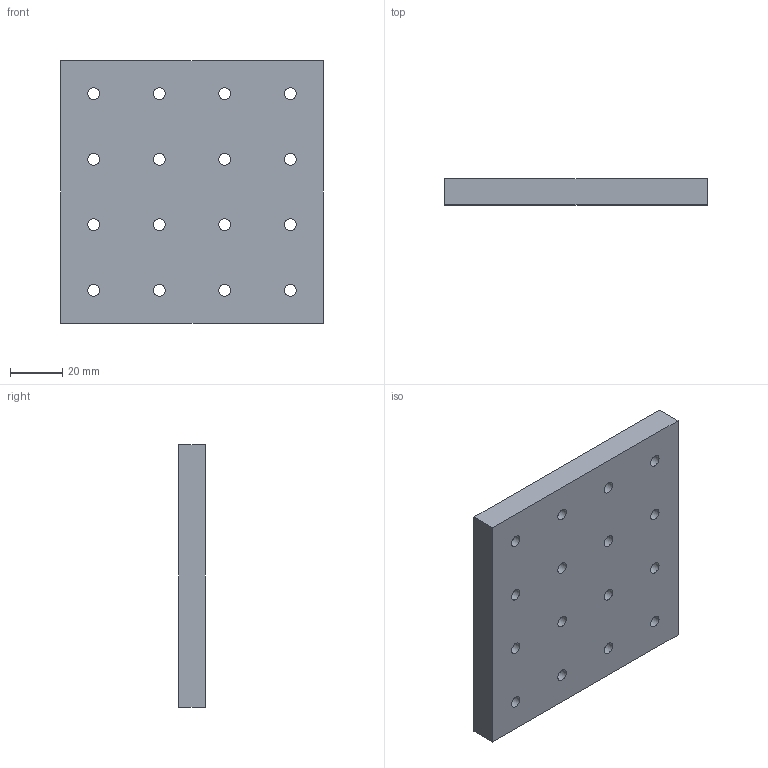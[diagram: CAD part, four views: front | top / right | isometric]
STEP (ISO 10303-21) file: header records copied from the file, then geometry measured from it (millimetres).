
FILE_DESCRIPTION(/* description */ (''),/* implementation_level */ '2;1');
FILE_NAME(/* name */ 'square-4x4-cap.stp',/* time_stamp */ '2026-04-10T09:56:56+08:00',/* author */ ('32769'),/* organization */ (''),/* preprocessor_version */ 'ST-DEVELOPER v20',/* originating_system */ 'Autodesk Inventor 2025',/* authorisation */ '');
FILE_SCHEMA (('AUTOMOTIVE_DESIGN { 1 0 10303 214 3 1 1 }'));
Length unit declared in the file: millimetre
Products named in the file (1): cap-4x4
Bounding box: 100 x 10 x 100 mm (x, y, z)
Volume: 97455.3 mm3; surface area: 25753 mm2
Topology: 1 solids, 1 shells, 22 faces, 60 edges, 40 vertices
Faces by surface type: cylinder 16, plane 6
Full cylindrical faces by diameter (mm): 4.5 x16
Entity records: 823 total; most frequent: DIRECTION 138, CARTESIAN_POINT 123, ORIENTED_EDGE 120, EDGE_CURVE 60, AXIS2_PLACEMENT_3D 55, EDGE_LOOP 54, VERTEX_POINT 40, FACE_BOUND 32
